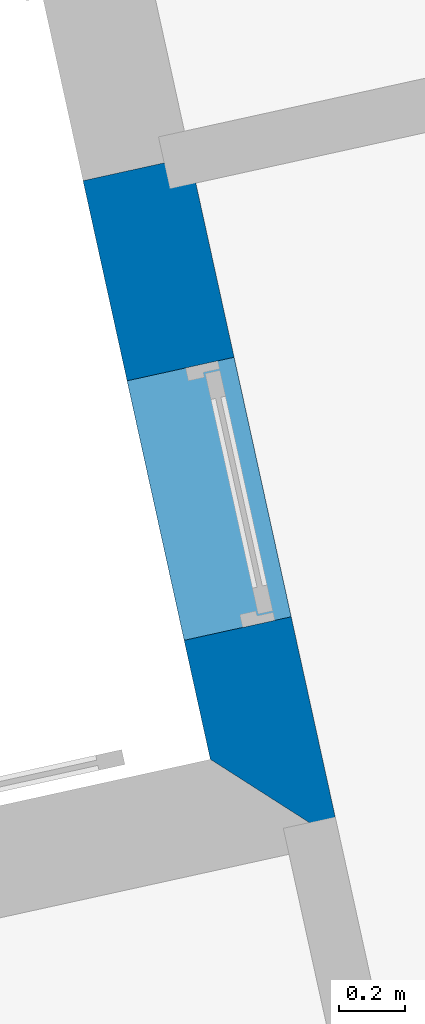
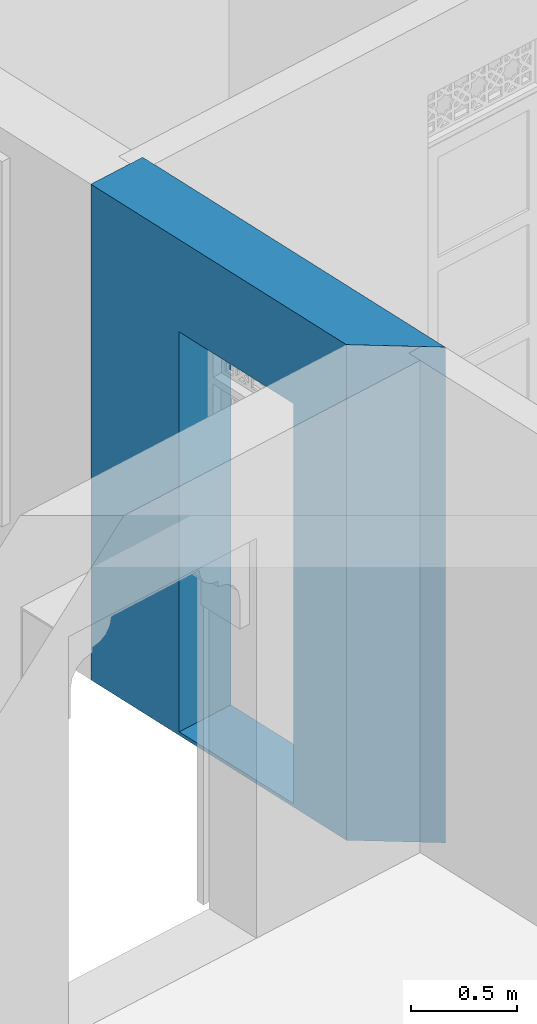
# One storey, part 5 of 14: 1 wall, 1 opening.
"""IFC4 building model written with IfcOpenShell, lengths in metres."""

from ifc_helpers import new_model, si_unit, frame, origin_with_axes, place, context, subcontext, project, spatial, polyline, outline, extrude, material, layer, layer_set, layer_usage, type_object, element, save


model = new_model("IFC4")

# Units and contexts
model_context = context("Model", 3, world=origin_with_axes())
body_context = subcontext(model_context, "Body", "Model", "MODEL_VIEW")
ifc_project = project(units=[si_unit("PLANEANGLEUNIT", "RADIAN"), si_unit("MASSUNIT", "GRAM", prefix="KILO"), si_unit("FORCEUNIT", "NEWTON", prefix="KILO"), si_unit("LENGTHUNIT", "METRE"), si_unit("AREAUNIT", "SQUARE_METRE"), si_unit("VOLUMEUNIT", "CUBIC_METRE")], contexts=[model_context, model_context])

# Site, building, storey
site_placement = place(None, origin_with_axes())
site = spatial("IfcSite", under=ifc_project, at=site_placement, Name="Site plot-2", CompositionType="ELEMENT")
building_placement = place(None, origin_with_axes())
building = spatial("IfcBuilding", under=site, at=building_placement, Name="Building plot-2", CompositionType="ELEMENT")
storey_placement = place(None, origin_with_axes())
storey = spatial("IfcBuildingStorey", under=building, at=storey_placement, Name="plot-2 0", CompositionType="ELEMENT", Elevation=0.0)

# Wall, opening
ifc_material = material(Name="Masonry")
ifc_layer = layer(ifc_material, 0.33, ventilated=False)
ifc_layer_set = layer_set([ifc_layer], Name="exterior_0.08_0.25")
ifc_layer_usage = layer_usage(ifc_layer_set, "AXIS2", "POSITIVE", -0.25)
wall_type = type_object("IfcWallType", Name="exterior_0.08_0.25", PredefinedType="SOLIDWALL", material=ifc_layer_set)
wall_placement = place(storey_placement, frame((16.3372042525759, 9.44376558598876, 0.0), z_axis=(0.0, 0.0, 1.0), x_axis=(0.214808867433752, -0.976656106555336, 0.0)))
wall = element("IfcWall", 1, at=wall_placement, inside=storey, type_object=wall_type, material=ifc_layer_usage, Name="exterior", context=body_context, shape_type="SweptSolid", body=[
    extrude(outline(polyline([(6.97677754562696e-16, 0.0800000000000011), (1.73043258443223e-15, -0.250000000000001), (1.78394094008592, -0.250000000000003), (2.11394094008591, 0.0799999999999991), (6.97677754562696e-16, 0.0800000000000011)])), origin_with_axes(), (0.0, 0.0, 1.0), 2.85),
])
opening_placement = place(wall_placement, frame((0.616970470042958, 0.0, 0.02)))
element("IfcOpeningElement", 2, at=opening_placement, cuts=wall, Name="My Opening", ObjectType="Opening", context=body_context, shape_type="SweptSolid", body=[
    extrude(outline(polyline([(0.0, -0.269999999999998), (0.799999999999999, -0.269999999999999), (0.799999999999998, 1.1), (-1.55431223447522e-15, 1.1), (0.0, -0.269999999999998)])), origin_with_axes(), (0.0, 0.0, 1.0), 2.3),
])

save(model, "model.ifc")
